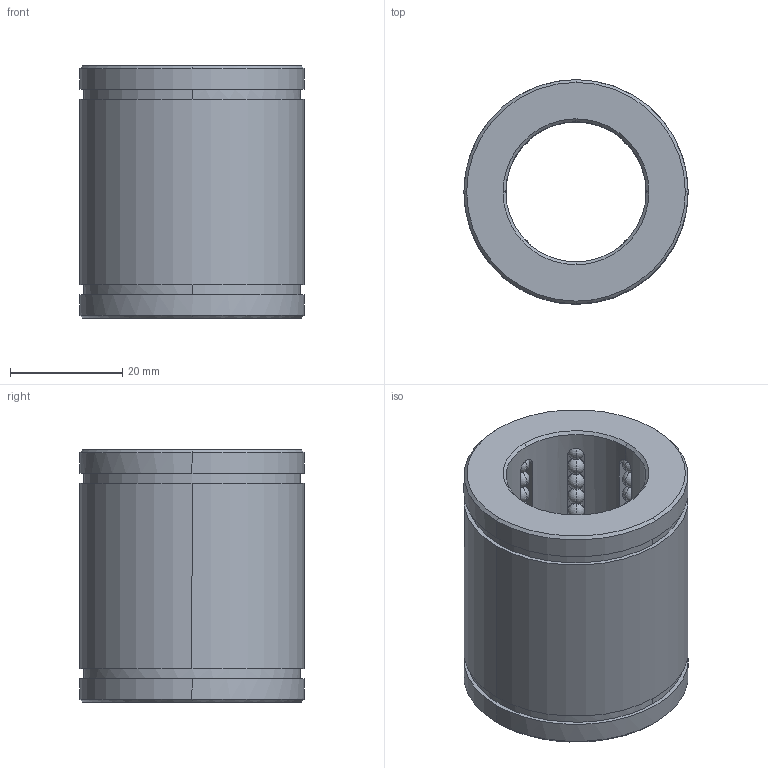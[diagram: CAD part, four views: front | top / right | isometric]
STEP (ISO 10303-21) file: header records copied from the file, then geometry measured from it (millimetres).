
FILE_DESCRIPTION(('CATIA V5 STEP Exchange'),'2;1');
FILE_NAME('C:\Users\Raffaele\Desktop\3D BOLEX\3D FILES CF BOLEX\3-BUSH REF 803\B8032545.stp','2019-06-19T14:08:34+00:00',('none'),('none'),'CATIA Version 5 Release 20 GA (IN-10)','CATIA V5 STEP AP203','none');
FILE_SCHEMA(('CONFIG_CONTROL_DESIGN'));
Length unit declared in the file: millimetre
Products named in the file (1): B8032545
Bounding box: 40 x 40 x 45 mm (x, y, z)
Volume: 32820.8 mm3; surface area: 15543.3 mm2
Topology: 97 solids, 97 shells, 458 faces, 1330 edges, 308 vertices
Faces by surface type: sphere 384, plane 30, cylinder 28, cone 16
Entity records: 8906 total; most frequent: CARTESIAN_POINT 1829, DIRECTION 1441, ORIENTED_EDGE 1124, AXIS2_PLACEMENT_3D 890, EDGE_CURVE 562, EDGE_LOOP 470, ADVANCED_FACE 458, FACE_OUTER_BOUND 458
